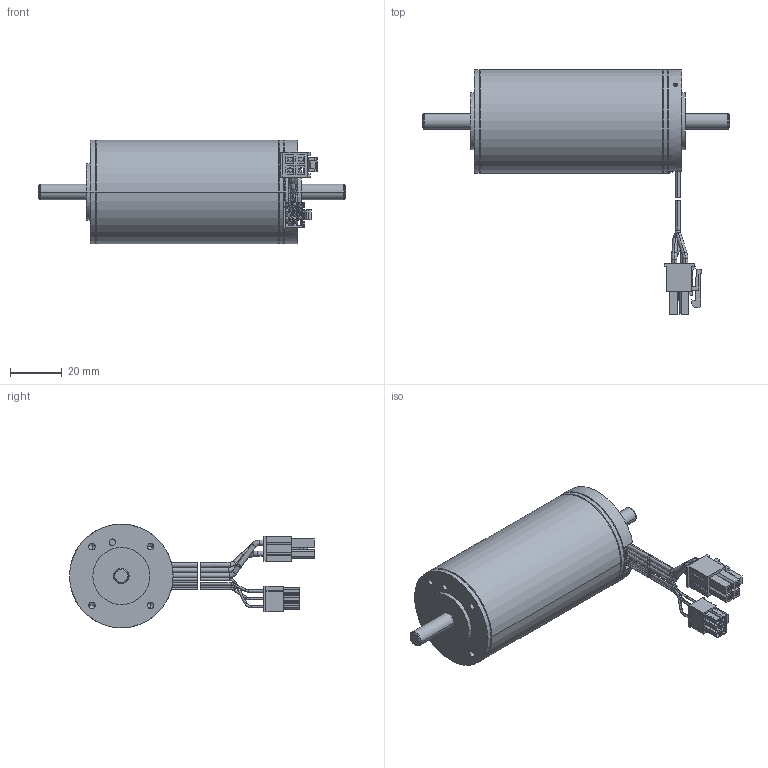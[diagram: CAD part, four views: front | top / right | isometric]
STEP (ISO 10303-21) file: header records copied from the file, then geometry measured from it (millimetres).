
FILE_DESCRIPTION((''),'2;1');
FILE_NAME('369146_EC40_170W','2016-10-17T',('mmagpetk'),(''),'CREO PARAMETRIC BY PTC INC, 2016050','CREO PARAMETRIC BY PTC INC, 2016050','');
FILE_SCHEMA(('CONFIG_CONTROL_DESIGN'));
Length unit declared in the file: millimetre
Products named in the file (1): 369146_EC40_170W
Bounding box: 118.5 x 94.6 x 40 mm (x, y, z)
Volume: 104510.1 mm3; surface area: 18929 mm2
Topology: 13 solids, 16 shells, 721 faces, 1881 edges, 1193 vertices
Faces by surface type: plane 448, cylinder 185, torus 50, cone 38
Entity records: 31131 total; most frequent: CARTESIAN_POINT 4775, ORIENTED_EDGE 3718, DIRECTION 3665, PRESENTATION_STYLE_ASSIGNMENT 2261, STYLED_ITEM 1872, CURVE_STYLE 1859, EDGE_CURVE 1859, VECTOR 1357
